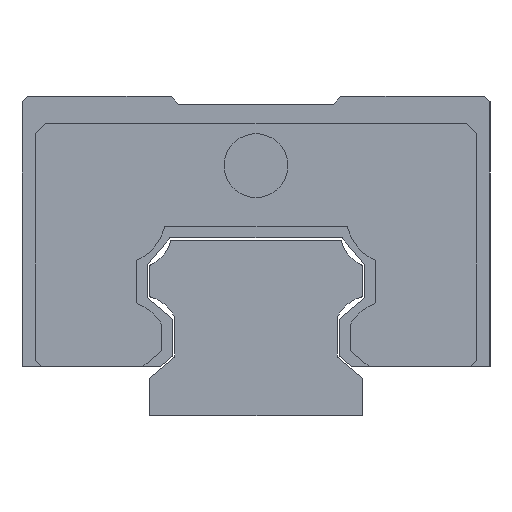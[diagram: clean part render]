
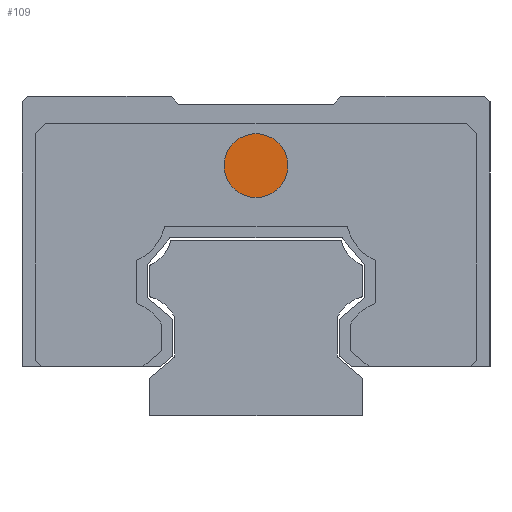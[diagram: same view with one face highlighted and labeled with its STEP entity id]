
A CAD part, left-side view. The second image highlights one B-rep face of the part: STEP entity #109.
In plain terms, the highlighted planar face has unit normal (-1, 0, 0).
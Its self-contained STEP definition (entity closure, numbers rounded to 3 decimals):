
#109 = ADVANCED_FACE ( 'NONE', ( #4881 ), #1241, .T. ) ;
#676 = CARTESIAN_POINT ( 'NONE',  ( -41.8, -3., 23.5 ) ) ;
#829 = DIRECTION ( 'NONE',  ( 0., -1., 0. ) ) ;
#1109 = CARTESIAN_POINT ( 'NONE',  ( -41.8, 0., 23.5 ) ) ;
#1241 = PLANE ( 'NONE',  #2728 ) ;
#1797 = CARTESIAN_POINT ( 'NONE',  ( -41.8, 0., 23.5 ) ) ;
#2524 = EDGE_CURVE ( 'NONE', #3028, #4121, #3918, .T. ) ;
#2650 = AXIS2_PLACEMENT_3D ( 'NONE', #1797, #3406, #5035 ) ;
#2728 = AXIS2_PLACEMENT_3D ( 'NONE', #2858, #4483, #829 ) ;
#2732 = DIRECTION ( 'NONE',  ( -1., 0., 0. ) ) ;
#2858 = CARTESIAN_POINT ( 'NONE',  ( -41.8, 0., 23.5 ) ) ;
#3028 = VERTEX_POINT ( 'NONE', #3871 ) ;
#3406 = DIRECTION ( 'NONE',  ( -1., 0., 0. ) ) ;
#3823 = CIRCLE ( 'NONE', #4871, 3. ) ;
#3871 = CARTESIAN_POINT ( 'NONE',  ( -41.8, 3., 23.5 ) ) ;
#3918 = CIRCLE ( 'NONE', #2650, 3. ) ;
#4121 = VERTEX_POINT ( 'NONE', #676 ) ;
#4164 = ORIENTED_EDGE ( 'NONE', *, *, #2524, .T. ) ;
#4356 = DIRECTION ( 'NONE',  ( 0., -1., 0. ) ) ;
#4483 = DIRECTION ( 'NONE',  ( -1., 0., 0. ) ) ;
#4506 = EDGE_CURVE ( 'NONE', #4121, #3028, #3823, .T. ) ;
#4694 = ORIENTED_EDGE ( 'NONE', *, *, #4506, .T. ) ;
#4871 = AXIS2_PLACEMENT_3D ( 'NONE', #1109, #2732, #4356 ) ;
#4881 = FACE_OUTER_BOUND ( 'NONE', #5125, .T. ) ;
#5035 = DIRECTION ( 'NONE',  ( 0., -1., 0. ) ) ;
#5125 = EDGE_LOOP ( 'NONE', ( #4694, #4164 ) ) ;
